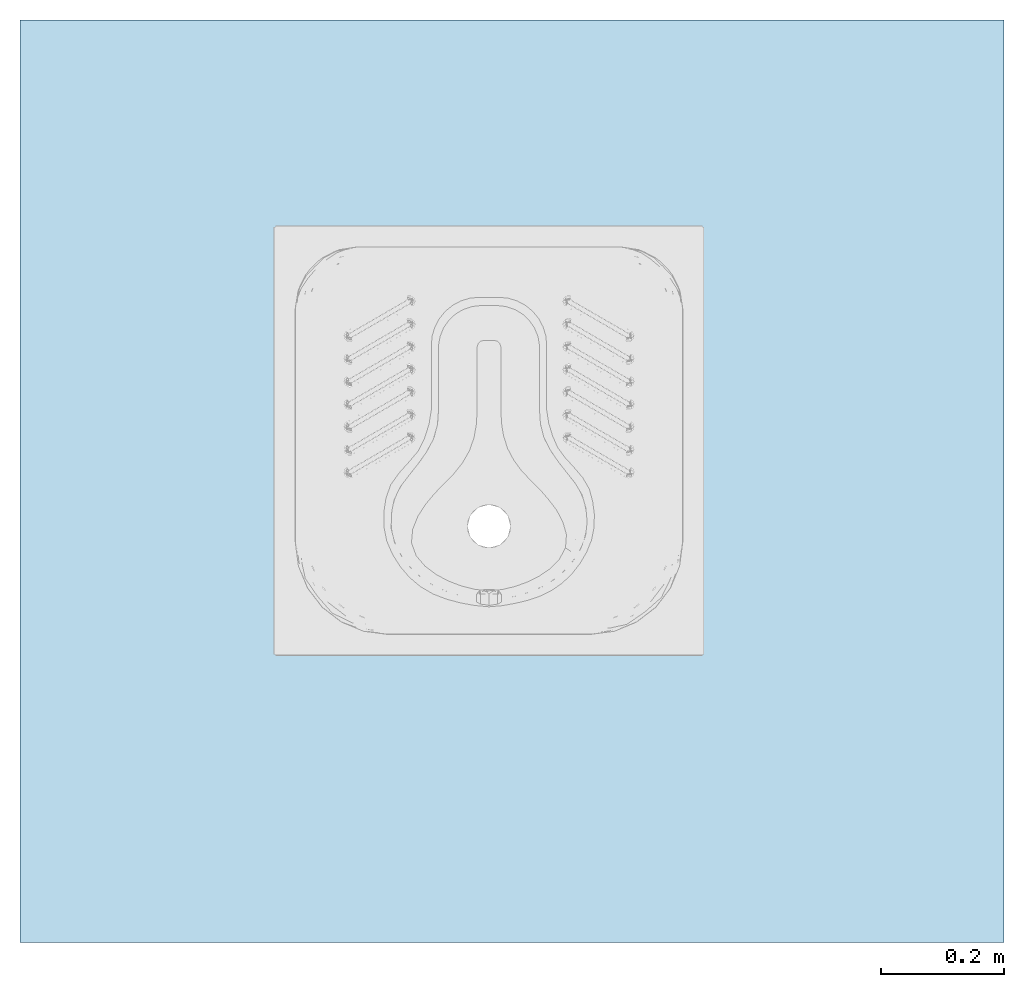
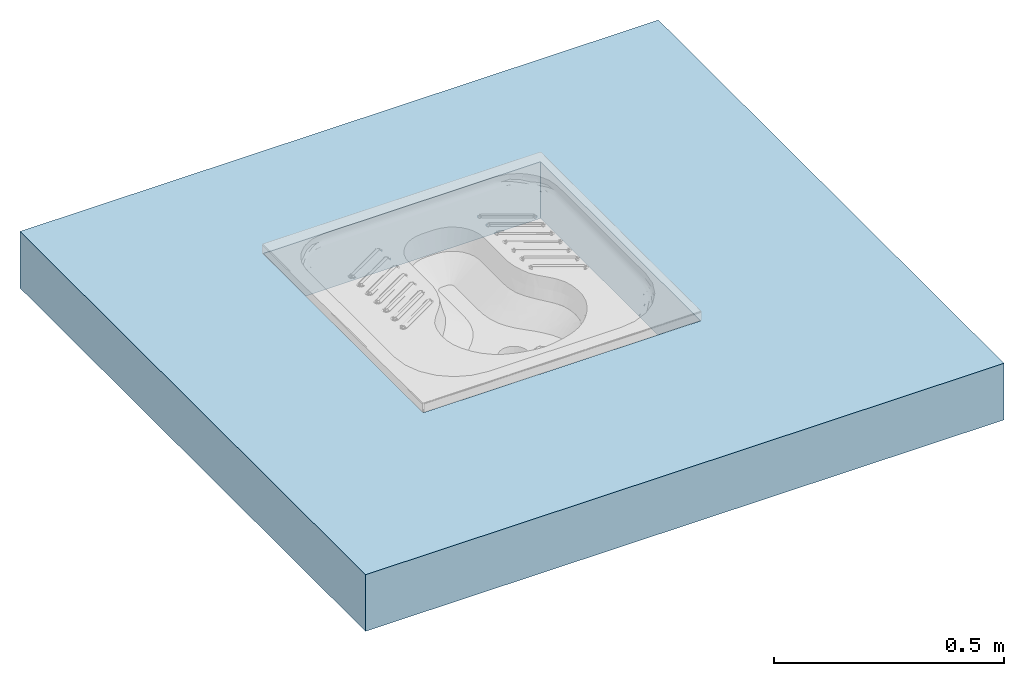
# One storey, incomplete: 1 slab, 1 opening.
"""IFC2X3 building model written with IfcOpenShell, lengths in millimetres."""

from ifc_helpers import new_model, entity, si_unit, converted_unit, frame, frame_2d, origin, origin_2d_with_axis, place, context, project, spatial, rectangle, extrude, material, layer, layer_set, layer_usage, element, save


model = new_model("IFC2X3")

# Units and contexts
model_context = context("Model", 3, precision=1e-06, world=origin())
plan_context = context("Plan", 3, precision=1e-06, world=origin())
ifc_project = project(units=[si_unit("LENGTHUNIT", "METRE", prefix="MILLI"), si_unit("AREAUNIT", "SQUARE_METRE", prefix="MILLI"), si_unit("VOLUMEUNIT", "CUBIC_METRE", prefix="MILLI"), converted_unit("PLANEANGLEUNIT", "DEGREE", entity("IfcRatioMeasure", 0.01745329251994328), si_unit("PLANEANGLEUNIT", "RADIAN"), dimensions=[0, 0, 0, 0, 0, 0, 0]), si_unit("TIMEUNIT", "SECOND")], contexts=[model_context, plan_context])

# Site, building, storey
site_placement = place(None, origin())
site = spatial("IfcSite", under=ifc_project, at=site_placement, Name="Default", CompositionType="ELEMENT")
building_placement = place(site_placement, origin())
building = spatial("IfcBuilding", under=site, at=building_placement, CompositionType="ELEMENT")
storey_placement = place(building_placement, origin())
storey = spatial("IfcBuildingStorey", under=building, at=storey_placement, Name="Level 1", CompositionType="ELEMENT", Elevation=0.0)

# Slab, opening
ifc_material = material(Name="Default Floor")
ifc_layer = layer(ifc_material, 150.0)
ifc_layer_set = layer_set([ifc_layer], Name="Floor:Generic 150mm")
ifc_layer_usage = layer_usage(ifc_layer_set, "AXIS3", "POSITIVE", 0.0)
slab_placement = place(storey_placement, frame((-3099.967499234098, -1204.625032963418, -150.0)))
slab = element("IfcSlab", 1, at=slab_placement, inside=storey, material=ifc_layer_usage, Name="Floor:Generic 150mm", ObjectType="Floor:Generic 150mm", PredefinedType="FLOOR", context=model_context, shape_type="SweptSolid", body=[
    extrude(rectangle(XDim=1500.0, YDim=1600.0, at=frame_2d((0.0, 0.0), x_axis=(0.0, -1.0))), frame((800.0, 750.0, 150.0), z_axis=(0.0, 0.0, -1.0), x_axis=(-1.0, 0.0, 0.0)), (0.0, 0.0, 1.0), 150.0),
])
opening_placement = place(slab_placement, origin())
element("IfcOpeningElement", 2, at=opening_placement, cuts=slab, ObjectType="Opening", context=model_context, shape_type="SweptSolid", body=[
    extrude(rectangle(XDim=695.0000198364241, YDim=695.0000198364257, at=origin_2d_with_axis()), frame((762.553731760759, 815.9621065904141, -1374.0), z_axis=(0.0, 0.0, 1.0), x_axis=(0.0, 1.0, 0.0)), (0.0, 0.0, 1.0), 3048.0),
])

save(model, "model.ifc")
